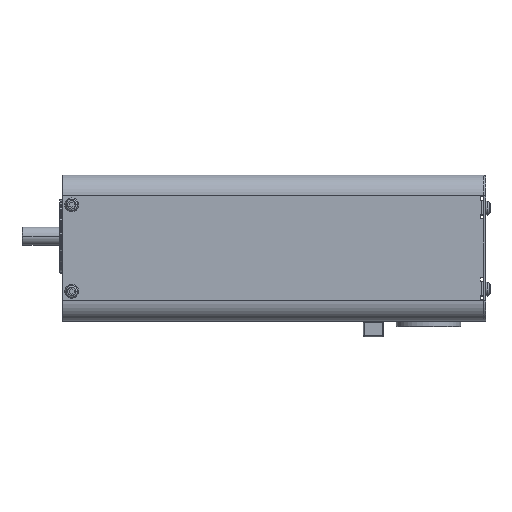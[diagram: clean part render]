
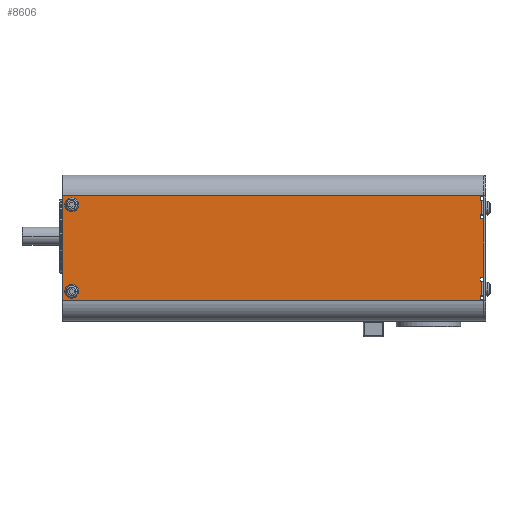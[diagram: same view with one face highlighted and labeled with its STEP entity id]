
A CAD part, top view. The second image highlights one B-rep face of the part: STEP entity #8606.
In plain terms, the highlighted planar face has unit normal (0, 0, 1).
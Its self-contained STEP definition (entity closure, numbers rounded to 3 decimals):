
#218=DIRECTION('',(1.,0.,0.));
#219=VECTOR('',#218,228.8);
#220=CARTESIAN_POINT('',(0.,-35.,33.2));
#221=LINE('',#220,#219);
#1184=DIRECTION('',(-1.,0.,0.));
#1185=VECTOR('',#1184,2.);
#1186=CARTESIAN_POINT('',(228.8,-34.5,33.2));
#1187=LINE('',#1186,#1185);
#1196=DIRECTION('',(1.,0.,0.));
#1197=VECTOR('',#1196,0.8);
#1198=CARTESIAN_POINT('',(226.8,11.5,33.2));
#1199=LINE('',#1198,#1197);
#1200=DIRECTION('',(0.,1.,0.));
#1201=VECTOR('',#1200,2.);
#1202=CARTESIAN_POINT('',(226.8,9.5,33.2));
#1203=LINE('',#1202,#1201);
#1204=DIRECTION('',(-1.,0.,0.));
#1205=VECTOR('',#1204,2.);
#1206=CARTESIAN_POINT('',(228.8,9.5,33.2));
#1207=LINE('',#1206,#1205);
#1208=DIRECTION('',(0.,1.,0.));
#1209=VECTOR('',#1208,32.);
#1210=CARTESIAN_POINT('',(228.8,-22.5,33.2));
#1211=LINE('',#1210,#1209);
#1212=DIRECTION('',(0.,1.,0.));
#1213=VECTOR('',#1212,0.5);
#1214=CARTESIAN_POINT('',(228.8,-35.,33.2));
#1215=LINE('',#1214,#1213);
#1216=DIRECTION('',(0.,-1.,0.));
#1217=VECTOR('',#1216,57.);
#1218=CARTESIAN_POINT('',(0.,22.,33.2));
#1219=LINE('',#1218,#1217);
#1220=DIRECTION('',(0.,1.,0.));
#1221=VECTOR('',#1220,0.5);
#1222=CARTESIAN_POINT('',(228.8,21.5,33.2));
#1223=LINE('',#1222,#1221);
#1224=DIRECTION('',(1.,0.,0.));
#1225=VECTOR('',#1224,2.);
#1226=CARTESIAN_POINT('',(226.8,21.5,33.2));
#1227=LINE('',#1226,#1225);
#1228=DIRECTION('',(0.,1.,0.));
#1229=VECTOR('',#1228,2.);
#1230=CARTESIAN_POINT('',(226.8,19.5,33.2));
#1231=LINE('',#1230,#1229);
#1232=DIRECTION('',(-1.,0.,0.));
#1233=VECTOR('',#1232,0.8);
#1234=CARTESIAN_POINT('',(227.6,19.5,33.2));
#1235=LINE('',#1234,#1233);
#1236=CARTESIAN_POINT('',(5.,17.,33.2));
#1237=DIRECTION('',(0.,0.,1.));
#1238=DIRECTION('',(-1.,0.,0.));
#1239=AXIS2_PLACEMENT_3D('',#1236,#1237,#1238);
#1241=CARTESIAN_POINT('',(5.,17.,33.2));
#1242=DIRECTION('',(0.,0.,1.));
#1243=DIRECTION('',(1.,0.,0.));
#1244=AXIS2_PLACEMENT_3D('',#1241,#1242,#1243);
#1246=CARTESIAN_POINT('',(5.,-30.,33.2));
#1247=DIRECTION('',(0.,0.,1.));
#1248=DIRECTION('',(-1.,0.,0.));
#1249=AXIS2_PLACEMENT_3D('',#1246,#1247,#1248);
#1251=CARTESIAN_POINT('',(5.,-30.,33.2));
#1252=DIRECTION('',(0.,0.,1.));
#1253=DIRECTION('',(1.,0.,0.));
#1254=AXIS2_PLACEMENT_3D('',#1251,#1252,#1253);
#1260=DIRECTION('',(0.,1.,0.));
#1261=VECTOR('',#1260,8.);
#1262=CARTESIAN_POINT('',(227.6,11.5,33.2));
#1263=LINE('',#1262,#1261);
#1452=DIRECTION('',(1.,0.,0.));
#1453=VECTOR('',#1452,2.);
#1454=CARTESIAN_POINT('',(226.8,-22.5,33.2));
#1455=LINE('',#1454,#1453);
#1460=DIRECTION('',(0.,1.,0.));
#1461=VECTOR('',#1460,2.);
#1462=CARTESIAN_POINT('',(226.8,-24.5,33.2));
#1463=LINE('',#1462,#1461);
#1481=DIRECTION('',(-1.,0.,0.));
#1482=VECTOR('',#1481,0.8);
#1483=CARTESIAN_POINT('',(227.6,-24.5,33.2));
#1484=LINE('',#1483,#1482);
#1501=DIRECTION('',(0.,1.,0.));
#1502=VECTOR('',#1501,8.);
#1503=CARTESIAN_POINT('',(227.6,-32.5,33.2));
#1504=LINE('',#1503,#1502);
#1517=DIRECTION('',(1.,0.,0.));
#1518=VECTOR('',#1517,0.8);
#1519=CARTESIAN_POINT('',(226.8,-32.5,33.2));
#1520=LINE('',#1519,#1518);
#1640=DIRECTION('',(0.,1.,0.));
#1641=VECTOR('',#1640,2.);
#1642=CARTESIAN_POINT('',(226.8,-34.5,33.2));
#1643=LINE('',#1642,#1641);
#1836=DIRECTION('',(-1.,0.,0.));
#1837=VECTOR('',#1836,228.8);
#1838=CARTESIAN_POINT('',(228.8,22.,33.2));
#1839=LINE('',#1838,#1837);
#6405=CARTESIAN_POINT('',(0.,-35.,33.2));
#6406=VERTEX_POINT('',#6405);
#6407=CARTESIAN_POINT('',(0.,22.,33.2));
#6408=VERTEX_POINT('',#6407);
#6429=CARTESIAN_POINT('',(228.8,21.5,33.2));
#6430=CARTESIAN_POINT('',(228.8,22.,33.2));
#6431=VERTEX_POINT('',#6429);
#6432=VERTEX_POINT('',#6430);
#6445=CARTESIAN_POINT('',(228.8,-22.5,33.2));
#6446=CARTESIAN_POINT('',(228.8,9.5,33.2));
#6447=VERTEX_POINT('',#6445);
#6448=VERTEX_POINT('',#6446);
#6449=CARTESIAN_POINT('',(228.8,-35.,33.2));
#6450=CARTESIAN_POINT('',(228.8,-34.5,33.2));
#6451=VERTEX_POINT('',#6449);
#6452=VERTEX_POINT('',#6450);
#6461=CARTESIAN_POINT('',(226.8,21.5,33.2));
#6462=VERTEX_POINT('',#6461);
#6499=CARTESIAN_POINT('',(226.8,19.5,33.2));
#6500=VERTEX_POINT('',#6499);
#6501=CARTESIAN_POINT('',(227.6,19.5,33.2));
#6502=VERTEX_POINT('',#6501);
#6509=CARTESIAN_POINT('',(226.8,11.5,33.2));
#6510=CARTESIAN_POINT('',(227.6,11.5,33.2));
#6511=VERTEX_POINT('',#6509);
#6512=VERTEX_POINT('',#6510);
#6521=CARTESIAN_POINT('',(226.8,9.5,33.2));
#6522=VERTEX_POINT('',#6521);
#6557=CARTESIAN_POINT('',(226.8,-22.5,33.2));
#6558=VERTEX_POINT('',#6557);
#6559=CARTESIAN_POINT('',(226.8,-24.5,33.2));
#6560=VERTEX_POINT('',#6559);
#6561=CARTESIAN_POINT('',(227.6,-24.5,33.2));
#6562=VERTEX_POINT('',#6561);
#6563=CARTESIAN_POINT('',(227.6,-32.5,33.2));
#6564=VERTEX_POINT('',#6563);
#6565=CARTESIAN_POINT('',(226.8,-32.5,33.2));
#6566=VERTEX_POINT('',#6565);
#6567=CARTESIAN_POINT('',(226.8,-34.5,33.2));
#6568=VERTEX_POINT('',#6567);
#6703=CARTESIAN_POINT('',(1.25,17.,33.2));
#6704=CARTESIAN_POINT('',(8.75,17.,33.2));
#6705=VERTEX_POINT('',#6703);
#6706=VERTEX_POINT('',#6704);
#6707=CARTESIAN_POINT('',(1.25,-30.,33.2));
#6708=CARTESIAN_POINT('',(8.75,-30.,33.2));
#6709=VERTEX_POINT('',#6707);
#6710=VERTEX_POINT('',#6708);
#8551=CARTESIAN_POINT('',(114.4,-6.5,33.2));
#8552=DIRECTION('',(0.,0.,1.));
#8553=DIRECTION('',(0.,-1.,0.));
#8554=AXIS2_PLACEMENT_3D('',#8551,#8552,#8553);
#8555=PLANE('',#8554);
#8557=ORIENTED_EDGE('',*,*,#8556,.F.);
#8559=ORIENTED_EDGE('',*,*,#8558,.F.);
#8561=ORIENTED_EDGE('',*,*,#8560,.F.);
#8563=ORIENTED_EDGE('',*,*,#8562,.F.);
#8565=ORIENTED_EDGE('',*,*,#8564,.F.);
#8567=ORIENTED_EDGE('',*,*,#8566,.F.);
#8569=ORIENTED_EDGE('',*,*,#8568,.F.);
#8571=ORIENTED_EDGE('',*,*,#8570,.F.);
#8573=ORIENTED_EDGE('',*,*,#8572,.F.);
#8575=ORIENTED_EDGE('',*,*,#8574,.F.);
#8577=ORIENTED_EDGE('',*,*,#8576,.F.);
#8578=ORIENTED_EDGE('',*,*,#8543,.F.);
#8579=ORIENTED_EDGE('',*,*,#7193,.F.);
#8580=ORIENTED_EDGE('',*,*,#7225,.F.);
#8582=ORIENTED_EDGE('',*,*,#8581,.F.);
#8584=ORIENTED_EDGE('',*,*,#8583,.F.);
#8585=ORIENTED_EDGE('',*,*,#7106,.F.);
#8587=ORIENTED_EDGE('',*,*,#8586,.F.);
#8589=ORIENTED_EDGE('',*,*,#8588,.F.);
#8591=ORIENTED_EDGE('',*,*,#8590,.F.);
#8592=EDGE_LOOP('',(#8557,#8559,#8561,#8563,#8565,#8567,#8569,#8571,#8573,#8575,
#8577,#8578,#8579,#8580,#8582,#8584,#8585,#8587,#8589,#8591));
#8593=FACE_OUTER_BOUND('',#8592,.F.);
#8595=ORIENTED_EDGE('',*,*,#8594,.T.);
#8597=ORIENTED_EDGE('',*,*,#8596,.T.);
#8598=EDGE_LOOP('',(#8595,#8597));
#8599=FACE_BOUND('',#8598,.F.);
#8601=ORIENTED_EDGE('',*,*,#8600,.T.);
#8603=ORIENTED_EDGE('',*,*,#8602,.T.);
#8604=EDGE_LOOP('',(#8601,#8603));
#8605=FACE_BOUND('',#8604,.F.);
#8606=ADVANCED_FACE('',(#8593,#8599,#8605),#8555,.T.);
#1240=CIRCLE('',#1239,3.75);
#1245=CIRCLE('',#1244,3.75);
#1250=CIRCLE('',#1249,3.75);
#1255=CIRCLE('',#1254,3.75);
#7106=EDGE_CURVE('',#6431,#6432,#1223,.T.);
#7193=EDGE_CURVE('',#6451,#6452,#1215,.T.);
#7225=EDGE_CURVE('',#6406,#6451,#221,.T.);
#8543=EDGE_CURVE('',#6452,#6568,#1187,.T.);
#8556=EDGE_CURVE('',#6512,#6502,#1263,.T.);
#8558=EDGE_CURVE('',#6511,#6512,#1199,.T.);
#8560=EDGE_CURVE('',#6522,#6511,#1203,.T.);
#8562=EDGE_CURVE('',#6448,#6522,#1207,.T.);
#8564=EDGE_CURVE('',#6447,#6448,#1211,.T.);
#8566=EDGE_CURVE('',#6558,#6447,#1455,.T.);
#8568=EDGE_CURVE('',#6560,#6558,#1463,.T.);
#8570=EDGE_CURVE('',#6562,#6560,#1484,.T.);
#8572=EDGE_CURVE('',#6564,#6562,#1504,.T.);
#8574=EDGE_CURVE('',#6566,#6564,#1520,.T.);
#8576=EDGE_CURVE('',#6568,#6566,#1643,.T.);
#8581=EDGE_CURVE('',#6408,#6406,#1219,.T.);
#8583=EDGE_CURVE('',#6432,#6408,#1839,.T.);
#8586=EDGE_CURVE('',#6462,#6431,#1227,.T.);
#8588=EDGE_CURVE('',#6500,#6462,#1231,.T.);
#8590=EDGE_CURVE('',#6502,#6500,#1235,.T.);
#8594=EDGE_CURVE('',#6705,#6706,#1240,.T.);
#8596=EDGE_CURVE('',#6706,#6705,#1245,.T.);
#8600=EDGE_CURVE('',#6709,#6710,#1250,.T.);
#8602=EDGE_CURVE('',#6710,#6709,#1255,.T.);
